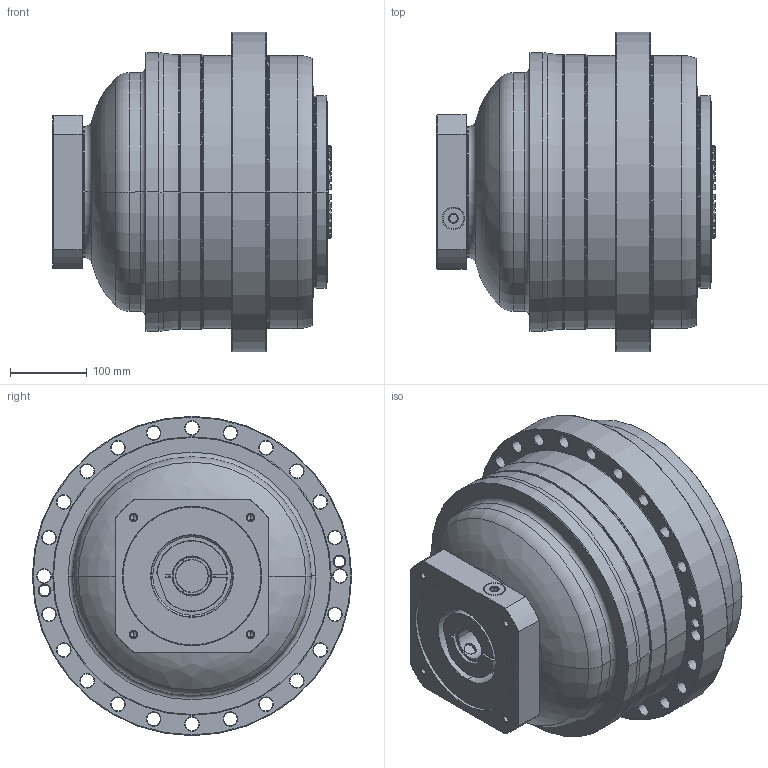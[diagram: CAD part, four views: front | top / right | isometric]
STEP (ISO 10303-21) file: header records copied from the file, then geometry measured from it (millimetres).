
FILE_DESCRIPTION((''),'2;1');
FILE_NAME('APC355_2ST_42-P0409A50201_ASM','2018-06-29T',('d01226'),(''),'PRO/ENGINEER BY PARAMETRIC TECHNOLOGY CORPORATION, 2008410','PRO/ENGINEER BY PARAMETRIC TECHNOLOGY CORPORATION, 2008410','');
FILE_SCHEMA(('CONFIG_CONTROL_DESIGN'));
Length unit declared in the file: millimetre
Products named in the file (9): P0276101003; P03571G0103; P1339110101; P0503A00012; P0962102001; P1222100001; P0409A50201; 21711422019; APC355_2ST_42-P0409A50201_ASM
Assembly tree (8 placements, depth 2):
  APC355_2ST_42-P0409A50201_ASM
    P0276101003
    P03571G0103
    P1339110101
    P0503A00012
    P0962102001
    P1222100001
    P0409A50201
    21711422019
Bounding box: 361.6 x 415 x 415 mm (x, y, z)
Volume: 33234863.6 mm3; surface area: 1311227.3 mm2
Topology: 9 solids, 22 shells, 874 faces, 2145 edges, 1309 vertices
Faces by surface type: cone 284, cylinder 256, plane 164, torus 156, bspline 14
Entity records: 32124 total; most frequent: CARTESIAN_POINT 11116, DIRECTION 4685, ORIENTED_EDGE 4188, EDGE_CURVE 2119, AXIS2_PLACEMENT_3D 2040, VERTEX_POINT 1309, CIRCLE 1151, EDGE_LOOP 986
